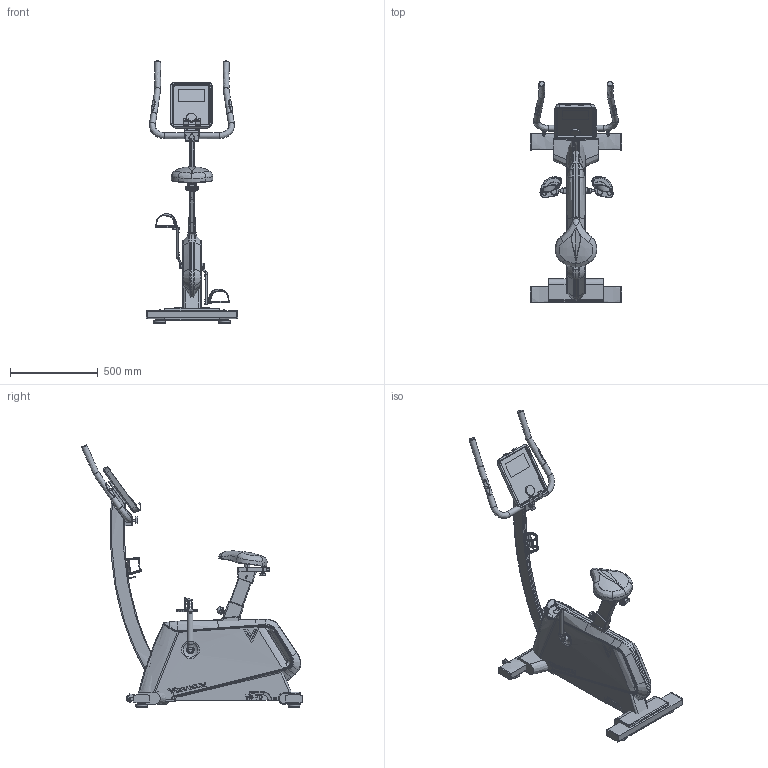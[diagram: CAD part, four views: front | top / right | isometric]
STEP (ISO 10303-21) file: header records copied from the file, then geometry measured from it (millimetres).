
FILE_DESCRIPTION(('HOOPS Exchange Step'),'2;1');
FILE_NAME('D:\Área de trabalho\VB70\STEP\VB70.stp','2025-06-18T16:16:58-03:00',('Brun0'),('Unknown organisation'),'HOOPS Exchange 2024.2','HOOPS Exchange','Unknown authorisation');
FILE_SCHEMA( ('AP203_CONFIGURATION_CONTROLLED_3D_DESIGN_OF_MECHANICAL_PARTS_AND_ASSEMBLIES_MIM_LF') );
Length unit declared in the file: millimetre
Products named in the file (6): 0; root
Assembly tree (5 placements, depth 5):
  root
    0
    0
      0
        0
          0
Bounding box: 520.92 x 1257.02 x 1491.05 mm (x, y, z)
Topology: 100 solids, 152 shells, 2673 faces, 6912 edges, 4420 vertices
Faces by surface type: bspline 1348, plane 614, cylinder 453, torus 168, cone 49, extrusion 35, offset 6
Full cylindrical faces by diameter (mm): 3.424 x2, 6.244 x4, 6.289 x4, 6.636 x1, 6.94 x4, 7.024 x2, 7.204 x2, 7.742 x1, 8.671 x2, 9.618 x2, 9.948 x1, 12.063 x2, 12.889 x4, 15.972 x1, 17.957 x1, 19.747 x1, 25.405 x1, 27.906 x1, 29.945 x2, 34.555 x2, 38.319 x1, 38.798 x4, 39.093 x1, 48.17 x4, 55.423 x1, 65.587 x4, 73.747 x2, 76.276 x4
Entity records: 268452 total; most frequent: CARTESIAN_POINT 217346, ORIENTED_EDGE 13117, EDGE_CURVE 6827, DIRECTION 5394, B_SPLINE_CURVE_WITH_KNOTS 4769, VERTEX_POINT 4420, EDGE_LOOP 2800, FACE_BOUND 2800
